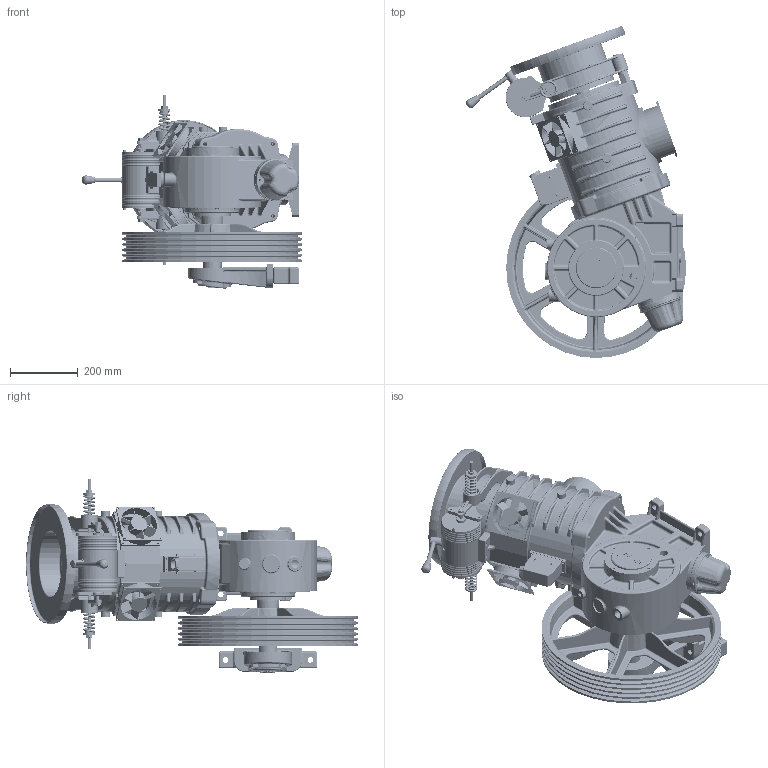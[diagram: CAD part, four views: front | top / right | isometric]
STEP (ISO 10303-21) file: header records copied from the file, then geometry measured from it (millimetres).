
FILE_DESCRIPTION (( 'STEP AP214' ), '1' );
FILE_NAME ('ELP75100.STEP', '2025-10-01T10:37:05', ( '' ), ( '' ), 'SwSTEP 2.0', 'SolidWorks 2023', '' );
FILE_SCHEMA (( 'AUTOMOTIVE_DESIGN' ));
Length unit declared in the file: millimetre
Products named in the file (1): ELP75100
Bounding box: 648.96 x 977.27 x 569.91 mm (x, y, z)
Volume: 40485530 mm3; surface area: 5081443.1 mm2
Topology: 89 solids, 103 shells, 6362 faces, 15294 edges, 9025 vertices
Faces by surface type: cylinder 2316, plane 1432, bspline 1036, torus 727, cone 494, sphere 357
Entity records: 250495 total; most frequent: CARTESIAN_POINT 107884, DIRECTION 29941, ORIENTED_EDGE 29890, EDGE_CURVE 14945, AXIS2_PLACEMENT_3D 12515, VERTEX_POINT 9000, CIRCLE 7188, EDGE_LOOP 6987
